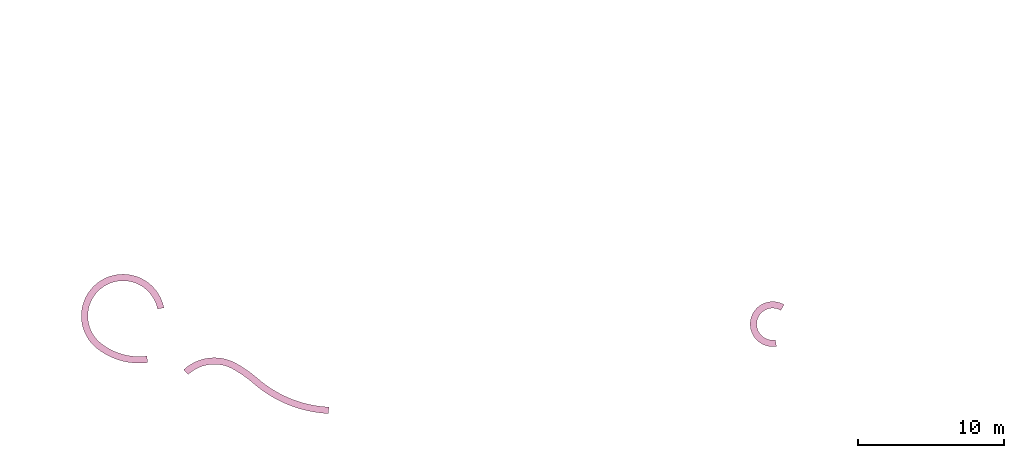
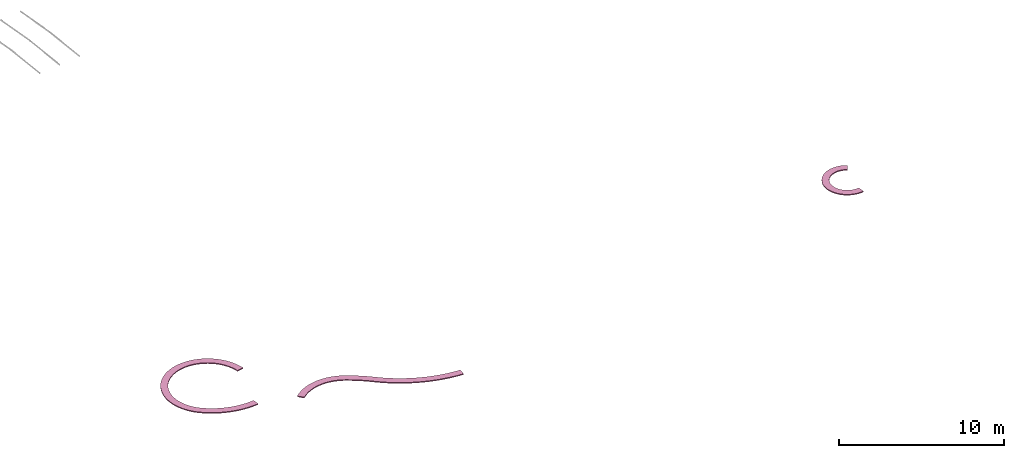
# One storey, part 3 of 3: 1 furnishing.
"""IFC2X3 building model written with IfcOpenShell, lengths in metres."""

from ifc_helpers import new_model, entity, si_unit, converted_unit, derived_unit, direction, frame, frame_2d, origin, place, context, subcontext, project, spatial, polyline, circle_curve, parameter, trimmed, segment, composite_curve, outline, extrude, source, transform, mapped, material, type_object, type_shapes, element, save


model = new_model("IFC2X3")

# Units and contexts
model_context = context("Model", 3, precision=1e-05, world=origin(), true_north=direction((6.123031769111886e-17, 1.0)))
body_context = subcontext(model_context, "Body", "Model", "MODEL_VIEW")
ifc_project = project(units=[si_unit("LENGTHUNIT", "METRE"), si_unit("AREAUNIT", "SQUARE_METRE"), si_unit("VOLUMEUNIT", "CUBIC_METRE"), converted_unit("PLANEANGLEUNIT", "DEGREE", entity("IfcRatioMeasure", 0.017453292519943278), si_unit("PLANEANGLEUNIT", "RADIAN"), dimensions=[0, 0, 0, 0, 0, 0, 0]), si_unit("MASSUNIT", "GRAM", prefix="KILO"), derived_unit("MASSDENSITYUNIT", [(si_unit("MASSUNIT", "GRAM", prefix="KILO"), 1), (si_unit("LENGTHUNIT", "METRE"), -3)]), derived_unit("IONCONCENTRATIONUNIT", [(si_unit("MASSUNIT", "GRAM", prefix="KILO"), 1), (si_unit("LENGTHUNIT", "METRE"), -3)]), derived_unit("MOMENTOFINERTIAUNIT", [(si_unit("LENGTHUNIT", "METRE"), 4)]), si_unit("TIMEUNIT", "SECOND"), si_unit("FREQUENCYUNIT", "HERTZ"), si_unit("THERMODYNAMICTEMPERATUREUNIT", "DEGREE_CELSIUS"), derived_unit("THERMALTRANSMITTANCEUNIT", [(si_unit("MASSUNIT", "GRAM", prefix="KILO"), 1), (si_unit("THERMODYNAMICTEMPERATUREUNIT", "KELVIN"), -1), (si_unit("TIMEUNIT", "SECOND"), -3)]), derived_unit("THERMALCONDUCTANCEUNIT", [(si_unit("MASSUNIT", "GRAM", prefix="KILO"), 1), (si_unit("THERMODYNAMICTEMPERATUREUNIT", "KELVIN"), -1), (si_unit("TIMEUNIT", "SECOND"), -3), (si_unit("LENGTHUNIT", "METRE"), 1)]), derived_unit("VOLUMETRICFLOWRATEUNIT", [(si_unit("LENGTHUNIT", "METRE"), 3), (si_unit("TIMEUNIT", "SECOND"), -1)]), derived_unit("MASSFLOWRATEUNIT", [(si_unit("MASSUNIT", "GRAM", prefix="KILO"), 1), (si_unit("TIMEUNIT", "SECOND"), -1)]), derived_unit("ROTATIONALFREQUENCYUNIT", [(si_unit("TIMEUNIT", "SECOND"), -1)]), si_unit("ELECTRICCURRENTUNIT", "AMPERE"), si_unit("ELECTRICVOLTAGEUNIT", "VOLT"), si_unit("POWERUNIT", "WATT"), si_unit("FORCEUNIT", "NEWTON", prefix="KILO"), si_unit("ILLUMINANCEUNIT", "LUX"), si_unit("LUMINOUSFLUXUNIT", "LUMEN"), si_unit("LUMINOUSINTENSITYUNIT", "CANDELA"), derived_unit("USERDEFINED", [(si_unit("MASSUNIT", "GRAM", prefix="KILO"), -1), (si_unit("LENGTHUNIT", "METRE"), -2), (si_unit("TIMEUNIT", "SECOND"), 3), (si_unit("LUMINOUSFLUXUNIT", "LUMEN"), 1)]), derived_unit("USERDEFINED", [(si_unit("MASSUNIT", "GRAM", prefix="KILO"), 1), (si_unit("TIMEUNIT", "SECOND"), -3), (si_unit("LENGTHUNIT", "METRE"), 3), (si_unit("ELECTRICCURRENTUNIT", "AMPERE"), -2)]), derived_unit("SOUNDPOWERUNIT", [(si_unit("MASSUNIT", "GRAM", prefix="KILO"), 1), (si_unit("TIMEUNIT", "SECOND"), -3), (si_unit("LENGTHUNIT", "METRE"), 2)]), derived_unit("SOUNDPRESSUREUNIT", [(si_unit("MASSUNIT", "GRAM", prefix="KILO"), 1), (si_unit("LENGTHUNIT", "METRE"), -1), (si_unit("TIMEUNIT", "SECOND"), -2)]), derived_unit("LINEARVELOCITYUNIT", [(si_unit("LENGTHUNIT", "METRE"), 1), (si_unit("TIMEUNIT", "SECOND"), -1)]), si_unit("PRESSUREUNIT", "PASCAL"), derived_unit("USERDEFINED", [(si_unit("MASSUNIT", "GRAM", prefix="KILO"), 1), (si_unit("LENGTHUNIT", "METRE"), -2), (si_unit("TIMEUNIT", "SECOND"), -2)]), derived_unit("LINEARFORCEUNIT", [(si_unit("MASSUNIT", "GRAM", prefix="KILO"), 1), (si_unit("TIMEUNIT", "SECOND"), -2)]), derived_unit("PLANARFORCEUNIT", [(si_unit("MASSUNIT", "GRAM", prefix="KILO"), 1), (si_unit("LENGTHUNIT", "METRE"), -1), (si_unit("TIMEUNIT", "SECOND"), -2)]), derived_unit("SPECIFICHEATCAPACITYUNIT", [(si_unit("THERMODYNAMICTEMPERATUREUNIT", "KELVIN"), -1), (si_unit("LENGTHUNIT", "METRE"), 2), (si_unit("TIMEUNIT", "SECOND"), -2)]), derived_unit("HEATINGVALUEUNIT", [(si_unit("LENGTHUNIT", "METRE"), 2), (si_unit("TIMEUNIT", "SECOND"), -2)]), derived_unit("VAPORPERMEABILITYUNIT", [(si_unit("LENGTHUNIT", "METRE"), -1), (si_unit("TIMEUNIT", "SECOND"), 1)]), derived_unit("DYNAMICVISCOSITYUNIT", [(si_unit("MASSUNIT", "GRAM", prefix="KILO"), 1), (si_unit("TIMEUNIT", "SECOND"), -1), (si_unit("LENGTHUNIT", "METRE"), -1)]), derived_unit("THERMALEXPANSIONCOEFFICIENTUNIT", [(si_unit("THERMODYNAMICTEMPERATUREUNIT", "KELVIN"), -1)]), derived_unit("MODULUSOFELASTICITYUNIT", [(si_unit("MASSUNIT", "GRAM", prefix="KILO"), 1), (si_unit("LENGTHUNIT", "METRE"), -1), (si_unit("TIMEUNIT", "SECOND"), -2)]), derived_unit("ISOTHERMALMOISTURECAPACITYUNIT", [(si_unit("LENGTHUNIT", "METRE"), 3), (si_unit("MASSUNIT", "GRAM", prefix="KILO"), -1)]), derived_unit("MOISTUREDIFFUSIVITYUNIT", [(si_unit("TIMEUNIT", "SECOND"), -1), (si_unit("LENGTHUNIT", "METRE"), 2)])], contexts=[model_context])

# Site, building, storey
site_placement = place(None, origin())
site = spatial("IfcSite", under=ifc_project, at=site_placement, Name="Default", CompositionType="ELEMENT")
building_placement = place(site_placement, origin())
building = spatial("IfcBuilding", under=site, at=building_placement, Name="Projeto", CompositionType="ELEMENT")
storey_placement = place(building_placement, origin())
storey = spatial("IfcBuildingStorey", under=building, at=storey_placement, Name="Primeiro Pavimento", CompositionType="ELEMENT", Elevation=0.0)

# Furnishing
ifc_material = material(Name="3D Mecanismo 01 Equip. 02")
furniture_type = type_object("IfcFurnitureType", Name="Mobiliário 1:Mobiliário 1", material=ifc_material)
shared_shape = source(origin(), body_context, "Body", "SweptSolid", [
    extrude(outline(composite_curve([segment(trimmed(circle_curve(frame_2d((-0.1414547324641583, 0.054460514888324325), x_axis=(-0.16888988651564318, -0.9856349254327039)), 1.0888761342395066), [parameter(0.0)], [parameter(99.723280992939)], True, "PARAMETER"), False, "CONTINUOUS"), segment(polyline([(-0.32535489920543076, -1.0187738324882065), (-0.4013553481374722, -1.4623095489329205)]), True, "CONTINUOUS"), segment(trimmed(circle_curve(frame_2d((-0.1414547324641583, 0.054460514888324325), x_axis=(-0.16888988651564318, -0.9856349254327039)), 1.5388761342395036), [parameter(0.0)], [parameter(99.72328099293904)], True, "PARAMETER"), True, "CONTINUOUS"), segment(trimmed(circle_curve(frame_2d((-0.1414547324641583, 0.054460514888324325), x_axis=(1.0, 0.0)), 1.5388761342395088), [parameter(0.0)], [parameter(120.53892808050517)], True, "PARAMETER"), True, "CONTINUOUS"), segment(polyline([(-0.9233941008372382, 1.3798701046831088), (-0.6947384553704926, 0.992292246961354)]), True, "CONTINUOUS"), segment(trimmed(circle_curve(frame_2d((-0.1414547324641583, 0.054460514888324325), x_axis=(1.0, 0.0)), 1.088876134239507), [parameter(0.0)], [parameter(120.53892808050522)], True, "PARAMETER"), False, "CONTINUOUS")], self_intersect=False)), frame((26.90693801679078, -11.803405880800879, 0.38000000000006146), z_axis=(0.0, 0.0, -1.0), x_axis=(-1.0, 0.0, 0.0)), (0.0, 0.0, -1.0), 0.0699999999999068),
    extrude(outline(composite_curve([segment(trimmed(circle_curve(frame_2d((-2.4527739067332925, -1.5186002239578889), x_axis=(0.3035538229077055, -0.9528142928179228)), 2.6288027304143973), [parameter(0.0)], [parameter(72.32882042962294)], True, "PARAMETER"), False, "CONTINUOUS"), segment(polyline([(-1.654790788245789, -4.023361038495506), (-1.5181915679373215, -4.452127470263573)]), True, "CONTINUOUS"), segment(trimmed(circle_curve(frame_2d((-2.4527739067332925, -1.5186002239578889), x_axis=(0.3035538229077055, -0.9528142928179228)), 3.0788027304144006), [parameter(0.0)], [parameter(72.32882042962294)], True, "PARAMETER"), True, "CONTINUOUS"), segment(trimmed(circle_curve(frame_2d((-8.582096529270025, -1.5186002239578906), x_axis=(1.0, 0.0)), 9.208125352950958), [parameter(0.0)], [parameter(11.217006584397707)], True, "PARAMETER"), True, "CONTINUOUS"), segment(trimmed(circle_curve(frame_2d((8.275910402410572, 1.8245753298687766), x_axis=(-0.980897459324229, -0.194525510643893)), 7.978183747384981), [parameter(321.94941081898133)], [parameter(0.0)], True, "PARAMETER"), False, "CONTINUOUS"), segment(polyline([(1.156806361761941, 5.425932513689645), (0.7552617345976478, 5.629062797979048)]), True, "CONTINUOUS"), segment(trimmed(circle_curve(frame_2d((8.275910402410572, 1.8245753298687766), x_axis=(-0.980897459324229, -0.194525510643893)), 8.428183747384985), [parameter(321.94941081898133)], [parameter(0.0)], True, "PARAMETER"), True, "CONTINUOUS"), segment(trimmed(circle_curve(frame_2d((-8.582096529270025, -1.5186002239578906), x_axis=(1.0, 0.0)), 8.758125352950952), [parameter(0.0)], [parameter(11.217006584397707)], True, "PARAMETER"), False, "CONTINUOUS")], self_intersect=False)), frame((-8.54225014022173, -15.73686788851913, 0.3799999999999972), z_axis=(0.0, 0.0, -1.0), x_axis=(0.49351389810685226, 0.8697379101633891, 0.0)), (0.0, 0.0, -1.0), 0.07000000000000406),
    extrude(outline(composite_curve([segment(polyline([(-1.8290038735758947, -0.6499135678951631), (-1.3790038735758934, -0.649913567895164)]), True, "CONTINUOUS"), segment(trimmed(circle_curve(frame_2d((2.807946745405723, -0.64991356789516), x_axis=(-0.6656510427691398, 0.7462631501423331)), 4.18695061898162), [parameter(2.544443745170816e-13)], [parameter(48.267708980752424)], True, "PARAMETER"), False, "CONTINUOUS"), segment(trimmed(circle_curve(frame_2d((1.543426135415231, 0.621298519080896), x_axis=(0.07093222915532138, -0.9974811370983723)), 2.3985441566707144), [parameter(0.0)], [parameter(215.33550485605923)], True, "PARAMETER"), False, "CONTINUOUS"), segment(polyline([(1.7135602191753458, -1.7712040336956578), (1.7454797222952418, -2.220070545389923)]), True, "CONTINUOUS"), segment(trimmed(circle_curve(frame_2d((1.543426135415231, 0.621298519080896), x_axis=(0.07093222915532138, -0.9974811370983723)), 2.8485441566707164), [parameter(0.0)], [parameter(215.52272130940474)], True, "PARAMETER"), True, "CONTINUOUS"), segment(trimmed(circle_curve(frame_2d((2.807946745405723, -0.64991356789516), x_axis=(-0.6656510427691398, 0.7462631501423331)), 4.636950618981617), [parameter(359.88893836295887)], [parameter(48.267708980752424)], True, "PARAMETER"), True, "CONTINUOUS")], self_intersect=False)), frame((-16.496958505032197, -12.643846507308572, 0.37999999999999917), z_axis=(0.0, 0.0, 1.0), x_axis=(-0.12600865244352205, 0.9920291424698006, 0.0)), (0.0, 0.0, 1.0), 0.07000000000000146),
])
type_shapes(furniture_type, [shared_shape])
furnishing_placement = place(storey_placement, origin())
element("IfcFurnishingElement", 1, at=furnishing_placement, inside=storey, type_object=furniture_type, material=ifc_material, Name="Mobiliário 1:Mobiliário 1", ObjectType="Mobiliário 1:Mobiliário 1", context=body_context, shape_type="MappedRepresentation", body=[
    mapped(shared_shape, transform((0.0, 0.0, 0.0), scale=1.0)),
])

save(model, "model.ifc")
